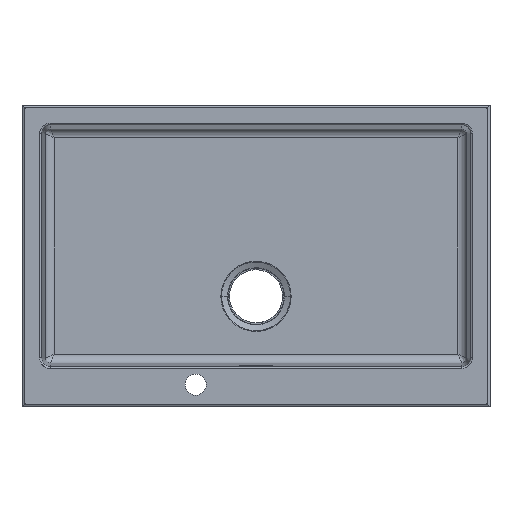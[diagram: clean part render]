
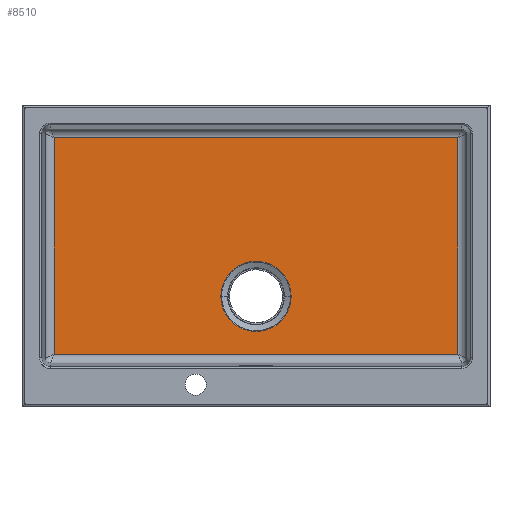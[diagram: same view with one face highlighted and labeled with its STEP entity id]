
A CAD part, top view. The second image highlights one B-rep face of the part: STEP entity #8510.
In plain terms, the highlighted planar face has unit normal (0, 0, 1).
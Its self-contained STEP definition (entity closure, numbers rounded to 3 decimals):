
#7619=CARTESIAN_POINT('Vertex',(-334.055,412.629,-194.1)) ;
#7807=CARTESIAN_POINT('Vertex',(334.055,412.629,-194.1)) ;
#7988=CARTESIAN_POINT('Vertex',(-334.055,54.219,-194.1)) ;
#8142=CARTESIAN_POINT('Vertex',(334.055,54.219,-194.1)) ;
#8256=CARTESIAN_POINT('Line Origine',(-334.055,233.424,-194.1)) ;
#8273=CARTESIAN_POINT('Line Origine',(0.,412.629,-194.1)) ;
#8290=CARTESIAN_POINT('Line Origine',(334.055,233.424,-194.1)) ;
#8307=CARTESIAN_POINT('Line Origine',(0.,54.219,-194.1)) ;
#8415=CARTESIAN_POINT('Axis2P3D Location',(-340.35,32.924,-194.1)) ;
#8427=CARTESIAN_POINT('Control Point',(58.143,150.022,-194.1)) ;
#8428=CARTESIAN_POINT('Control Point',(58.143,149.448,-194.1)) ;
#8429=CARTESIAN_POINT('Control Point',(58.136,148.877,-194.1)) ;
#8430=CARTESIAN_POINT('Control Point',(58.122,148.302,-194.1)) ;
#8431=CARTESIAN_POINT('Control Point',(58.007,145.197,-194.1)) ;
#8432=CARTESIAN_POINT('Control Point',(57.685,142.101,-194.1)) ;
#8433=CARTESIAN_POINT('Control Point',(57.284,139.594,-194.1)) ;
#8434=CARTESIAN_POINT('Control Point',(56.091,134.072,-194.1)) ;
#8435=CARTESIAN_POINT('Control Point',(54.238,128.731,-194.1)) ;
#8436=CARTESIAN_POINT('Control Point',(53.023,125.862,-194.1)) ;
#8437=CARTESIAN_POINT('Control Point',(49.071,118.037,-194.1)) ;
#8438=CARTESIAN_POINT('Control Point',(43.703,111.05,-194.1)) ;
#8439=CARTESIAN_POINT('Control Point',(39.71,106.988,-194.1)) ;
#8440=CARTESIAN_POINT('Control Point',(30.816,99.912,-194.1)) ;
#8441=CARTESIAN_POINT('Control Point',(20.488,95.168,-194.1)) ;
#8442=CARTESIAN_POINT('Control Point',(15.061,93.436,-194.1)) ;
#8443=CARTESIAN_POINT('Control Point',(3.895,91.324,-194.1)) ;
#8444=CARTESIAN_POINT('Control Point',(-7.45,91.942,-194.1)) ;
#8445=CARTESIAN_POINT('Control Point',(-13.058,92.941,-194.1)) ;
#8446=CARTESIAN_POINT('Control Point',(-23.921,96.279,-194.1)) ;
#8447=CARTESIAN_POINT('Control Point',(-33.673,102.117,-194.1)) ;
#8448=CARTESIAN_POINT('Control Point',(-38.168,105.615,-194.1)) ;
#8449=CARTESIAN_POINT('Control Point',(-44.963,112.38,-194.1)) ;
#8450=CARTESIAN_POINT('Control Point',(-50.227,120.349,-194.1)) ;
#8451=CARTESIAN_POINT('Control Point',(-52.095,123.767,-194.1)) ;
#8452=CARTESIAN_POINT('Control Point',(-54.457,129.104,-194.1)) ;
#8453=CARTESIAN_POINT('Control Point',(-56.132,134.68,-194.1)) ;
#8454=CARTESIAN_POINT('Control Point',(-56.613,136.561,-194.1)) ;
#8455=CARTESIAN_POINT('Control Point',(-57.215,139.409,-194.1)) ;
#8456=CARTESIAN_POINT('Control Point',(-57.638,142.287,-194.1)) ;
#8457=CARTESIAN_POINT('Control Point',(-57.759,143.249,-194.1)) ;
#8458=CARTESIAN_POINT('Control Point',(-57.961,145.178,-194.1)) ;
#8459=CARTESIAN_POINT('Control Point',(-58.082,147.114,-194.1)) ;
#8460=CARTESIAN_POINT('Control Point',(-58.123,148.082,-194.1)) ;
#8461=CARTESIAN_POINT('Control Point',(-58.143,149.052,-194.1)) ;
#8462=CARTESIAN_POINT('Control Point',(-58.143,150.022,-194.1)) ;
#8463=CARTESIAN_POINT('Vertex',(-58.143,150.022,-194.1)) ;
#8465=CARTESIAN_POINT('Vertex',(58.143,150.022,-194.1)) ;
#8469=CARTESIAN_POINT('Control Point',(58.143,150.022,-194.1)) ;
#8470=CARTESIAN_POINT('Control Point',(58.143,151.533,-194.1)) ;
#8471=CARTESIAN_POINT('Control Point',(58.094,153.045,-194.1)) ;
#8472=CARTESIAN_POINT('Control Point',(57.996,154.553,-194.1)) ;
#8473=CARTESIAN_POINT('Control Point',(57.701,157.562,-194.1)) ;
#8474=CARTESIAN_POINT('Control Point',(57.212,160.546,-194.1)) ;
#8475=CARTESIAN_POINT('Control Point',(56.92,162.029,-194.1)) ;
#8476=CARTESIAN_POINT('Control Point',(55.897,166.447,-194.1)) ;
#8477=CARTESIAN_POINT('Control Point',(54.448,170.752,-194.1)) ;
#8478=CARTESIAN_POINT('Control Point',(53.297,173.555,-194.1)) ;
#8479=CARTESIAN_POINT('Control Point',(49.483,181.352,-194.1)) ;
#8480=CARTESIAN_POINT('Control Point',(44.27,188.349,-194.1)) ;
#8481=CARTESIAN_POINT('Control Point',(40.337,192.469,-194.1)) ;
#8482=CARTESIAN_POINT('Control Point',(31.547,199.675,-194.1)) ;
#8483=CARTESIAN_POINT('Control Point',(21.29,204.57,-194.1)) ;
#8484=CARTESIAN_POINT('Control Point',(15.889,206.381,-194.1)) ;
#8485=CARTESIAN_POINT('Control Point',(4.756,208.656,-194.1)) ;
#8486=CARTESIAN_POINT('Control Point',(-6.598,208.205,-194.1)) ;
#8487=CARTESIAN_POINT('Control Point',(-12.219,207.289,-194.1)) ;
#8488=CARTESIAN_POINT('Control Point',(-23.13,204.111,-194.1)) ;
#8489=CARTESIAN_POINT('Control Point',(-32.967,198.416,-194.1)) ;
#8490=CARTESIAN_POINT('Control Point',(-37.513,194.984,-194.1)) ;
#8491=CARTESIAN_POINT('Control Point',(-44.468,188.26,-194.1)) ;
#8492=CARTESIAN_POINT('Control Point',(-49.883,180.287,-194.1)) ;
#8493=CARTESIAN_POINT('Control Point',(-51.831,176.814,-194.1)) ;
#8494=CARTESIAN_POINT('Control Point',(-54.295,171.381,-194.1)) ;
#8495=CARTESIAN_POINT('Control Point',(-56.044,165.694,-194.1)) ;
#8496=CARTESIAN_POINT('Control Point',(-56.545,163.774,-194.1)) ;
#8497=CARTESIAN_POINT('Control Point',(-57.174,160.866,-194.1)) ;
#8498=CARTESIAN_POINT('Control Point',(-57.616,157.926,-194.1)) ;
#8499=CARTESIAN_POINT('Control Point',(-57.742,156.943,-194.1)) ;
#8500=CARTESIAN_POINT('Control Point',(-57.953,154.972,-194.1)) ;
#8501=CARTESIAN_POINT('Control Point',(-58.08,152.994,-194.1)) ;
#8502=CARTESIAN_POINT('Control Point',(-58.122,152.007,-194.1)) ;
#8503=CARTESIAN_POINT('Control Point',(-58.143,151.011,-194.1)) ;
#8504=CARTESIAN_POINT('Control Point',(-58.143,150.022,-194.1)) ;
#8257=DIRECTION('Vector Direction',(0.,-1.,0.)) ;
#8274=DIRECTION('Vector Direction',(-1.,0.,0.)) ;
#8291=DIRECTION('Vector Direction',(0.,1.,0.)) ;
#8308=DIRECTION('Vector Direction',(1.,0.,0.)) ;
#8416=DIRECTION('Axis2P3D Direction',(0.,-0.,-1.)) ;
#8417=DIRECTION('Axis2P3D XDirection',(1.,0.,-0.)) ;
#8418=AXIS2_PLACEMENT_3D('Plane Axis2P3D',#8415,#8416,#8417) ;
#8421=ORIENTED_EDGE('',*,*,#8311,.F.) ;
#8422=ORIENTED_EDGE('',*,*,#8294,.F.) ;
#8423=ORIENTED_EDGE('',*,*,#8277,.F.) ;
#8424=ORIENTED_EDGE('',*,*,#8260,.F.) ;
#8507=ORIENTED_EDGE('',*,*,#8467,.F.) ;
#8508=ORIENTED_EDGE('',*,*,#8505,.F.) ;
#8509=FACE_BOUND('',#8506,.T.) ;
#8258=VECTOR('Line Direction',#8257,1.) ;
#8275=VECTOR('Line Direction',#8274,1.) ;
#8292=VECTOR('Line Direction',#8291,1.) ;
#8309=VECTOR('Line Direction',#8308,1.) ;
#8510=ADVANCED_FACE('PartBody',(#8425,#8509),#8419,.F.) ;
#8426=B_SPLINE_CURVE_WITH_KNOTS('',5,(#8427,#8428,#8429,#8430,#8431,#8432,#8433,#8434,#8435,#8436,#8437,#8438,#8439,#8440,#8441,#8442,#8443,#8444,#8445,#8446,#8447,#8448,#8449,#8450,#8451,#8452,#8453,#8454,#8455,#8456,#8457,#8458,#8459,#8460,#8461,#8462),.UNSPECIFIED.,.F.,.U.,(6,3,3,3,3,3,3,3,3,3,3,6),(89.61,93.469,110.528,131.446,169.419,207.398,245.377,283.351,309.458,322.512,329.039,335.566),.UNSPECIFIED.) ;
#8468=B_SPLINE_CURVE_WITH_KNOTS('',5,(#8469,#8470,#8471,#8472,#8473,#8474,#8475,#8476,#8477,#8478,#8479,#8480,#8481,#8482,#8483,#8484,#8485,#8486,#8487,#8488,#8489,#8490,#8491,#8492,#8493,#8494,#8495,#8496,#8497,#8498,#8499,#8500,#8501,#8502,#8503,#8504),.UNSPECIFIED.,.F.,.U.,(6,3,3,3,3,3,3,3,3,3,3,6),(85.417,95.589,105.761,126.105,164.08,202.057,240.036,278.01,304.692,318.034,324.704,331.375),.UNSPECIFIED.) ;
#8260=EDGE_CURVE('',#7989,#7620,#8259,.F.) ;
#8277=EDGE_CURVE('',#7620,#7808,#8276,.F.) ;
#8294=EDGE_CURVE('',#7808,#8143,#8293,.F.) ;
#8311=EDGE_CURVE('',#8143,#7989,#8310,.F.) ;
#8467=EDGE_CURVE('',#8464,#8466,#8426,.F.) ;
#8505=EDGE_CURVE('',#8466,#8464,#8468,.T.) ;
#8420=EDGE_LOOP('',(#8421,#8422,#8423,#8424)) ;
#8506=EDGE_LOOP('',(#8507,#8508)) ;
#8425=FACE_OUTER_BOUND('',#8420,.T.) ;
#8259=LINE('Line',#8256,#8258) ;
#8276=LINE('Line',#8273,#8275) ;
#8293=LINE('Line',#8290,#8292) ;
#8310=LINE('Line',#8307,#8309) ;
#8419=PLANE('',#8418) ;
#7620=VERTEX_POINT('',#7619) ;
#7808=VERTEX_POINT('',#7807) ;
#7989=VERTEX_POINT('',#7988) ;
#8143=VERTEX_POINT('',#8142) ;
#8464=VERTEX_POINT('',#8463) ;
#8466=VERTEX_POINT('',#8465) ;
